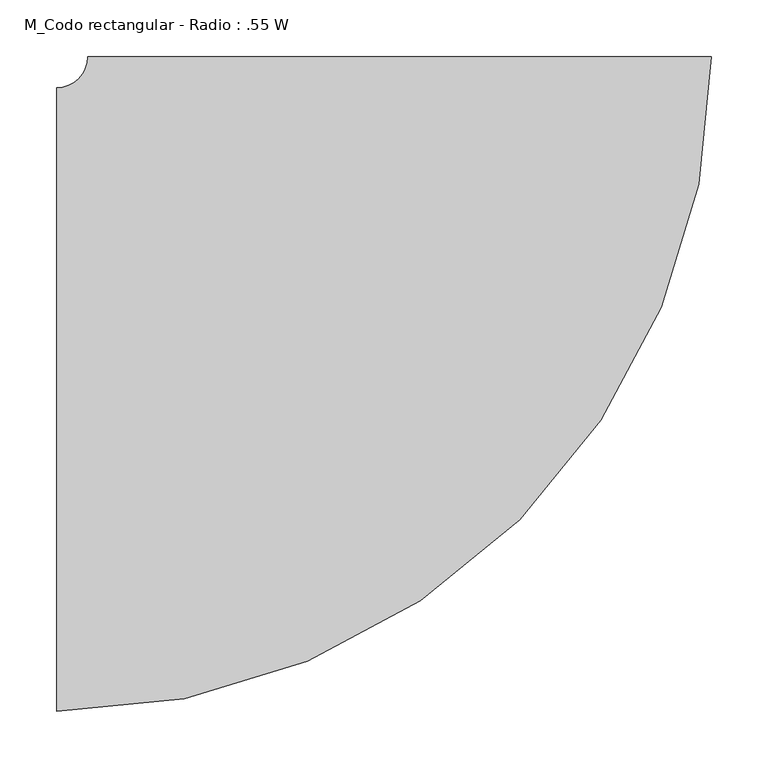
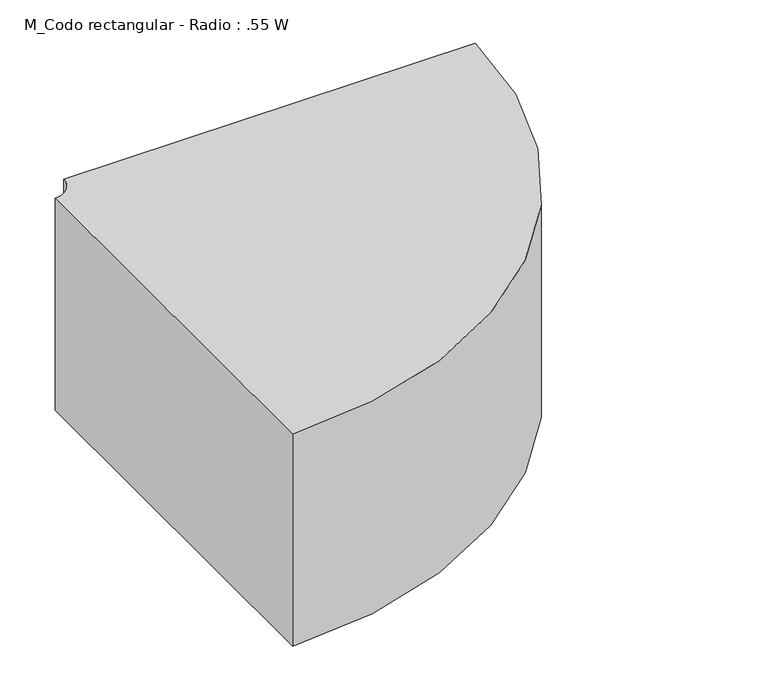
"""IFC4 building model written with IfcOpenShell, lengths in millimetres: duct fitting geometry, M_Codo rectangular - Radio : .55 W."""

from ifc_helpers import new_model, si_unit, point, frame, frame_2d, origin, place, context, project, spatial, polyline, circle_curve, trimmed, segment, composite_curve, outline, extrude, source, transform, mapped, element, save


def m_codo_rectangular_radio_55_w_77835ac2(model_context):
    return source(origin(), model_context, "Body", "SweptSolid", [
        extrude(outline(composite_curve([segment(trimmed(circle_curve(frame_2d((-302.5, 302.5)), 577.5), [point((275.0, 302.5))], [point((-302.5, -275.0))], False, "CARTESIAN"), True, "CONTINUOUS"), segment(polyline([(-302.5, -275.0), (-302.5, 275.0)]), True, "CONTINUOUS"), segment(trimmed(circle_curve(frame_2d((-302.5, 302.5)), 27.5), [point((-302.5, 275.0))], [point((-275.0, 302.5))], True, "CARTESIAN"), True, "CONTINUOUS"), segment(polyline([(-275.0, 302.5), (275.0, 302.5)]), True, "CONTINUOUS")], self_intersect=False)), frame((0.0, 0.0, -150.0), z_axis=(0.0, 0.0, 1.0), x_axis=(1.0, 0.0, 0.0)), (0.0, 0.0, 1.0), 300.0),
    ])


if __name__ == "__main__":
    model = new_model("IFC4")
    model_context = context("Model", 3, world=origin())
    ifc_project = project(units=[si_unit("LENGTHUNIT", "METRE", prefix="MILLI")], contexts=[model_context])
    site = spatial("IfcSite", under=ifc_project)
    building = spatial("IfcBuilding", under=site)
    placement = place(None, origin())
    m_codo_rectangular_radio_55_w_shape = m_codo_rectangular_radio_55_w_77835ac2(model_context)
    element("IfcDuctFitting", 1, ObjectType="M_Codo rectangular - Radio : .55 W", at=placement, inside=building, context=model_context, shape_type="MappedRepresentation", body=[
        mapped(m_codo_rectangular_radio_55_w_shape, transform((0.0, 0.0, 0.0), x_axis=(1.0, 0.0, 0.0), y_axis=(0.0, 1.0, 0.0), z_axis=(0.0, 0.0, 1.0))),
    ])
    save(model, "model.ifc")
